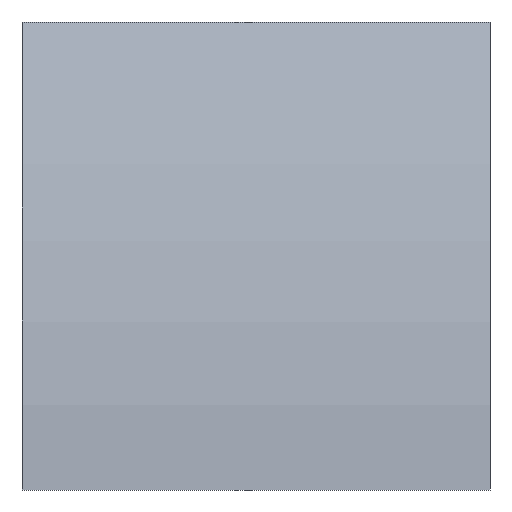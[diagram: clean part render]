
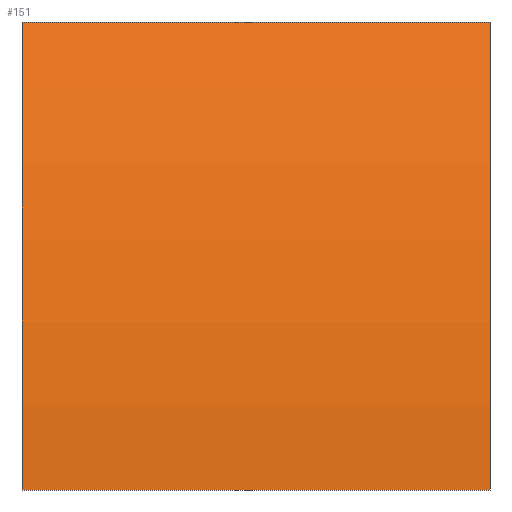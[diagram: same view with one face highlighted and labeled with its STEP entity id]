
A CAD part, front view. The second image highlights one B-rep face of the part: STEP entity #151.
In plain terms, the highlighted cylindrical face has radius 122.317 mm (diameter 244.633 mm), a partial arc.
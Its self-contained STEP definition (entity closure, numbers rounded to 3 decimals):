
#93 = VERTEX_POINT( '', #230 );
#97 = EDGE_CURVE( '', #173, #125, #234, .T. );
#125 = VERTEX_POINT( '', #265 );
#129 = VERTEX_POINT( '', #269 );
#151 = ADVANCED_FACE( '', ( #291 ), #292, .T. );
#155 = EDGE_CURVE( '', #125, #93, #296, .T. );
#165 = EDGE_CURVE( '', #93, #129, #309, .T. );
#173 = VERTEX_POINT( '', #318 );
#197 = EDGE_CURVE( '', #173, #129, #346, .T. );
#230 = CARTESIAN_POINT( '', ( 51., -36., -63. ) );
#234 = CIRCLE( '', #375, 122.317 );
#265 = CARTESIAN_POINT( '', ( -19., -36., -63. ) );
#269 = CARTESIAN_POINT( '', ( 51., -8., 7. ) );
#291 = FACE_OUTER_BOUND( '', #451, .T. );
#292 = CYLINDRICAL_SURFACE( '', #452, 122.317 );
#296 = LINE( '', #459, #460 );
#309 = CIRCLE( '', #476, 122.317 );
#318 = CARTESIAN_POINT( '', ( -19., -8., 7. ) );
#346 = LINE( '', #523, #524 );
#375 = AXIS2_PLACEMENT_3D( '', #557, #558, #559 );
#451 = EDGE_LOOP( '', ( #604, #605, #606, #607 ) );
#452 = AXIS2_PLACEMENT_3D( '', #608, #609, #610 );
#459 = CARTESIAN_POINT( '', ( -19., -36., -63. ) );
#460 = VECTOR( '', #612, 1. );
#476 = AXIS2_PLACEMENT_3D( '', #631, #632, #633 );
#523 = CARTESIAN_POINT( '', ( -19., -8., 7. ) );
#524 = VECTOR( '', #686, 1. );
#557 = CARTESIAN_POINT( '', ( -19., 86.04, -71.216 ) );
#558 = DIRECTION( '', ( 1., 0., 0. ) );
#559 = DIRECTION( '', ( 0., -0.769, 0.639 ) );
#604 = ORIENTED_EDGE( '', *, *, #165, .T. );
#605 = ORIENTED_EDGE( '', *, *, #197, .F. );
#606 = ORIENTED_EDGE( '', *, *, #97, .T. );
#607 = ORIENTED_EDGE( '', *, *, #155, .T. );
#608 = CARTESIAN_POINT( '', ( -19., 86.04, -71.216 ) );
#609 = DIRECTION( '', ( -1., 0., 0. ) );
#610 = DIRECTION( '', ( 0., -0.769, 0.639 ) );
#612 = DIRECTION( '', ( 1., 0., 0. ) );
#631 = CARTESIAN_POINT( '', ( 51., 86.04, -71.216 ) );
#632 = DIRECTION( '', ( -1., 0., 0. ) );
#633 = DIRECTION( '', ( 0., -0.769, 0.639 ) );
#686 = DIRECTION( '', ( 1., 0., 0. ) );
